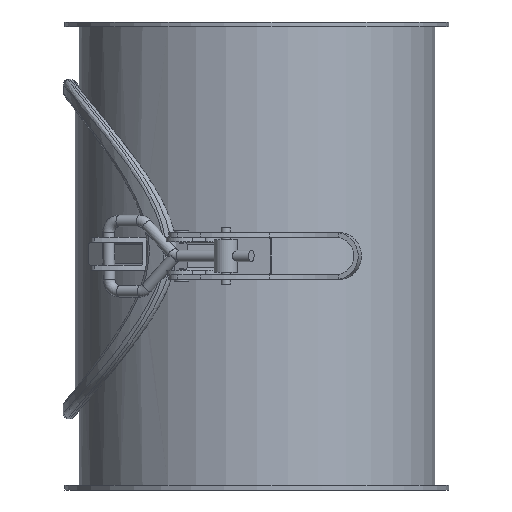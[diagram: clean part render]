
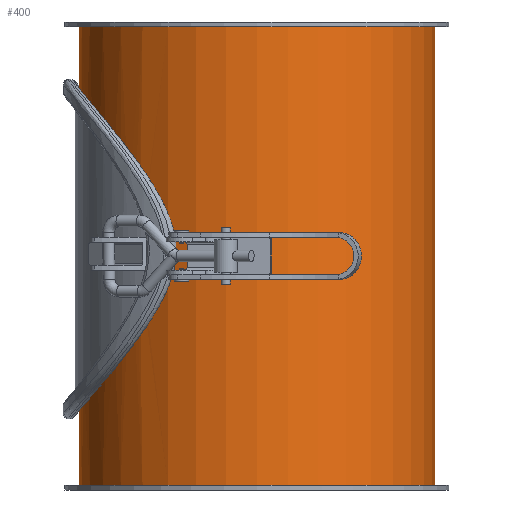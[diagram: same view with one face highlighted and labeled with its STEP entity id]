
A CAD part, front view. The second image highlights one B-rep face of the part: STEP entity #400.
In plain terms, the highlighted cylindrical face has radius 76 mm (diameter 152 mm), a full revolution.
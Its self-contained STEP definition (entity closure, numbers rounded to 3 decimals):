
#143=CARTESIAN_POINT('',(76.0,0.,198.0));
#144=VERTEX_POINT('',#143);
#145=CARTESIAN_POINT('',(0.0,0.0,198.0));
#146=DIRECTION('',(0.0,0.0,-1.0));
#147=DIRECTION('',(-1.0,0.0,0.0));
#148=AXIS2_PLACEMENT_3D('',#145,#146,#147);
#149=CIRCLE('',#148,76.0);
#150=EDGE_CURVE('',#144,#144,#149,.T.);
#191=CARTESIAN_POINT('',(-76.0,0.,2.0));
#192=VERTEX_POINT('',#191);
#193=CARTESIAN_POINT('',(0.0,0.0,2.0));
#194=DIRECTION('',(0.0,0.0,1.0));
#195=DIRECTION('',(-1.0,0.0,0.0));
#196=AXIS2_PLACEMENT_3D('',#193,#194,#195);
#197=CIRCLE('',#196,76.0);
#198=EDGE_CURVE('',#192,#192,#197,.T.);
#281=CARTESIAN_POINT('',(-49.697,-57.5,100.0));
#282=VERTEX_POINT('',#281);
#283=CARTESIAN_POINT('',(-49.697,-57.5,100.0));
#284=CARTESIAN_POINT('',(-49.697,-57.5,96.131));
#285=CARTESIAN_POINT('',(-50.162,-57.106,92.253));
#286=CARTESIAN_POINT('',(-51.867,-55.562,84.704));
#287=CARTESIAN_POINT('',(-53.099,-54.413,81.032));
#288=CARTESIAN_POINT('',(-55.969,-51.456,74.061));
#289=CARTESIAN_POINT('',(-57.605,-49.646,70.756));
#290=CARTESIAN_POINT('',(-60.936,-45.496,64.645));
#291=CARTESIAN_POINT('',(-62.628,-43.156,61.838));
#292=CARTESIAN_POINT('',(-65.756,-38.217,56.9));
#293=CARTESIAN_POINT('',(-67.314,-35.442,54.572));
#294=CARTESIAN_POINT('',(-70.192,-29.334,50.407));
#295=CARTESIAN_POINT('',(-71.51,-25.999,48.571));
#296=CARTESIAN_POINT('',(-73.692,-18.95,45.578));
#297=CARTESIAN_POINT('',(-74.557,-15.229,44.419));
#298=CARTESIAN_POINT('',(-75.712,-7.646,42.879));
#299=CARTESIAN_POINT('',(-76.0,-3.783,42.5));
#300=CARTESIAN_POINT('',(-76.0,3.783,42.5));
#301=CARTESIAN_POINT('',(-75.712,7.646,42.879));
#302=CARTESIAN_POINT('',(-74.557,15.229,44.419));
#303=CARTESIAN_POINT('',(-73.692,18.95,45.578));
#304=CARTESIAN_POINT('',(-71.51,25.999,48.571));
#305=CARTESIAN_POINT('',(-70.192,29.334,50.407));
#306=CARTESIAN_POINT('',(-67.314,35.442,54.572));
#307=CARTESIAN_POINT('',(-65.756,38.217,56.9));
#308=CARTESIAN_POINT('',(-62.628,43.156,61.838));
#309=CARTESIAN_POINT('',(-60.936,45.496,64.645));
#310=CARTESIAN_POINT('',(-57.605,49.646,70.756));
#311=CARTESIAN_POINT('',(-55.969,51.456,74.061));
#312=CARTESIAN_POINT('',(-53.099,54.413,81.032));
#313=CARTESIAN_POINT('',(-51.867,55.562,84.704));
#314=CARTESIAN_POINT('',(-50.162,57.106,92.253));
#315=CARTESIAN_POINT('',(-49.697,57.5,96.131));
#316=CARTESIAN_POINT('',(-49.697,57.5,103.869));
#317=CARTESIAN_POINT('',(-50.162,57.106,107.747));
#318=CARTESIAN_POINT('',(-51.867,55.562,115.296));
#319=CARTESIAN_POINT('',(-53.099,54.413,118.968));
#320=CARTESIAN_POINT('',(-55.969,51.456,125.939));
#321=CARTESIAN_POINT('',(-57.605,49.646,129.244));
#322=CARTESIAN_POINT('',(-60.936,45.496,135.355));
#323=CARTESIAN_POINT('',(-62.628,43.156,138.162));
#324=CARTESIAN_POINT('',(-65.756,38.217,143.1));
#325=CARTESIAN_POINT('',(-67.314,35.442,145.428));
#326=CARTESIAN_POINT('',(-70.192,29.334,149.593));
#327=CARTESIAN_POINT('',(-71.51,25.999,151.429));
#328=CARTESIAN_POINT('',(-73.692,18.95,154.422));
#329=CARTESIAN_POINT('',(-74.557,15.229,155.581));
#330=CARTESIAN_POINT('',(-75.712,7.646,157.121));
#331=CARTESIAN_POINT('',(-76.0,3.783,157.5));
#332=CARTESIAN_POINT('',(-76.,-3.783,157.5));
#333=CARTESIAN_POINT('',(-75.712,-7.646,157.121));
#334=CARTESIAN_POINT('',(-74.557,-15.229,155.581));
#335=CARTESIAN_POINT('',(-73.692,-18.95,154.422));
#336=CARTESIAN_POINT('',(-71.51,-25.999,151.429));
#337=CARTESIAN_POINT('',(-70.192,-29.334,149.593));
#338=CARTESIAN_POINT('',(-67.314,-35.442,145.428));
#339=CARTESIAN_POINT('',(-65.756,-38.217,143.1));
#340=CARTESIAN_POINT('',(-62.628,-43.156,138.162));
#341=CARTESIAN_POINT('',(-60.936,-45.496,135.355));
#342=CARTESIAN_POINT('',(-57.605,-49.646,129.244));
#343=CARTESIAN_POINT('',(-55.969,-51.456,125.939));
#344=CARTESIAN_POINT('',(-53.099,-54.413,118.968));
#345=CARTESIAN_POINT('',(-51.867,-55.562,115.296));
#346=CARTESIAN_POINT('',(-50.162,-57.106,107.747));
#347=CARTESIAN_POINT('',(-49.697,-57.5,103.869));
#348=CARTESIAN_POINT('',(-49.697,-57.5,100.0));
#349=B_SPLINE_CURVE_WITH_KNOTS('',3,(#283,#284,#285,#286,#287,#288,#289,#290,#291,#292,#293,#294,#295,#296,#297,#298,#299,#300,#301,#302,#303,#304,#305,#306,#307,#308,#309,#310,#311,#312,#313,#314,#315,#316,#317,#318,#319,#320,#321,#322,#323,#324,#325,#326,#327,#328,#329,#330,#331,#332,#333,#334,#335,#336,#337,#338,#339,#340,#341,#342,#343,#344,#345,#346,#347,#348),.UNSPECIFIED.,.T.,.U.,(4,2,2,2,2,2,2,2,2,2,2,2,2,2,2,2,2,2,2,2,2,2,2,2,2,2,2,2,2,2,2,2,4),(0.0,1.161,2.321,3.482,4.643,5.778,6.913,8.048,9.183,10.318,11.453,12.588,13.723,14.884,16.044,17.205,18.366,19.527,20.687,21.848,23.009,24.144,25.279,26.414,27.549,28.684,29.819,30.954,32.089,33.25,34.41,35.571,36.732),.UNSPECIFIED.);
#350=EDGE_CURVE('',#282,#282,#349,.T.);
#386=CARTESIAN_POINT('',(0.0,0.0,0.0));
#387=DIRECTION('',(0.0,0.0,1.0));
#388=DIRECTION('',(-1.0,0.0,0.0));
#389=AXIS2_PLACEMENT_3D('',#386,#387,#388);
#390=CYLINDRICAL_SURFACE('',#389,76.0);
#391=ORIENTED_EDGE('',*,*,#150,.T.);
#392=EDGE_LOOP('',(#391));
#393=FACE_OUTER_BOUND('',#392,.T.);
#394=ORIENTED_EDGE('',*,*,#198,.T.);
#395=EDGE_LOOP('',(#394));
#396=FACE_BOUND('',#395,.T.);
#397=ORIENTED_EDGE('',*,*,#350,.T.);
#398=EDGE_LOOP('',(#397));
#399=FACE_BOUND('',#398,.T.);
#400=ADVANCED_FACE('',(#393,#396,#399),#390,.T.);
